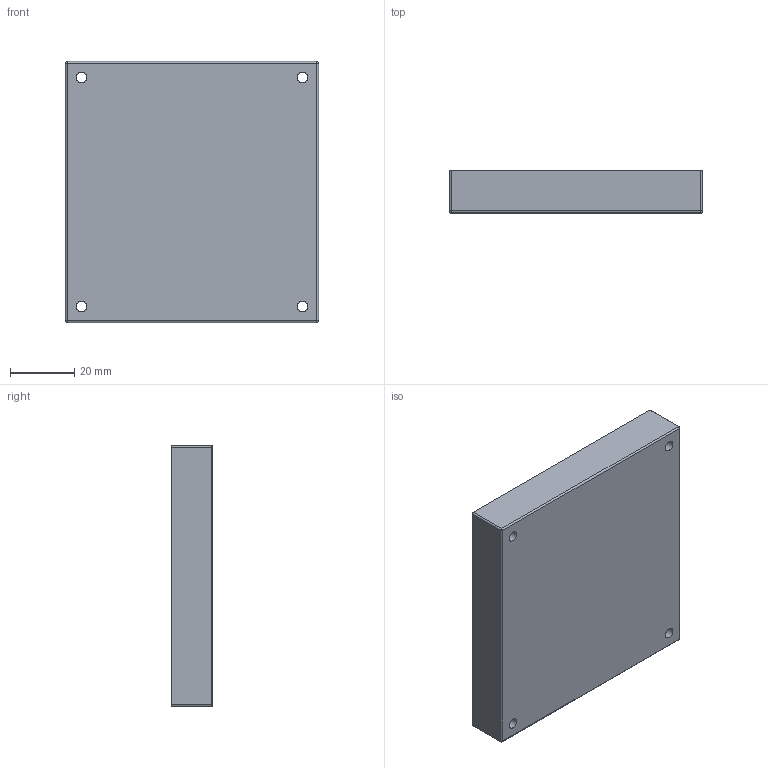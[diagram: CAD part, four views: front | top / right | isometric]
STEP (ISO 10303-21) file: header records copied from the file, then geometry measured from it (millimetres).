
FILE_DESCRIPTION(/* description */ ('STEP AP242 Edition 2','CAx-IF Rec.Pracs.---Representation and Presentation of Product Manufacturing Information (PMI)---4.0---2014-10-13','CAx-IF Rec.Pracs.---3D Tessellated Geometry---0.4---2014-09-14','2;1','CAx-IF Rec.Pracs.---User Defined Attributes---1.5---2016-08-15'),/* implementation_level */ '2;1');
FILE_NAME(/* name */ 'Configuration 1 - casebot',/* time_stamp */ '2026-10-25T00:37:19Z',/* author */ (''),/* organization */ (''),/* preprocessor_version */ 'ST-DEVELOPER v20',/* originating_system */ 'ONSHAPE BY PTC INC, 1.222',/* authorisation */ ' ');
FILE_SCHEMA (('AP242_MANAGED_MODEL_BASED_3D_ENGINEERING_MIM_LF { 1 0 10303 442 3 1 4 }'));
Length unit declared in the file: metre
Products named in the file (1): casebot
Bounding box: 79 x 13 x 81.5 mm (x, y, z)
Volume: 42054.5 mm3; surface area: 20295.6 mm2
Topology: 1 solids, 1 shells, 47 faces, 113 edges, 70 vertices
Faces by surface type: plane 24, cylinder 17, sphere 4, torus 2
Full cylindrical faces by diameter (mm): 3.3 x4
Entity records: 1373 total; most frequent: DIRECTION 241, CARTESIAN_POINT 227, ORIENTED_EDGE 218, EDGE_CURVE 109, AXIS2_PLACEMENT_3D 84, LINE 73, VECTOR 73, VERTEX_POINT 70
